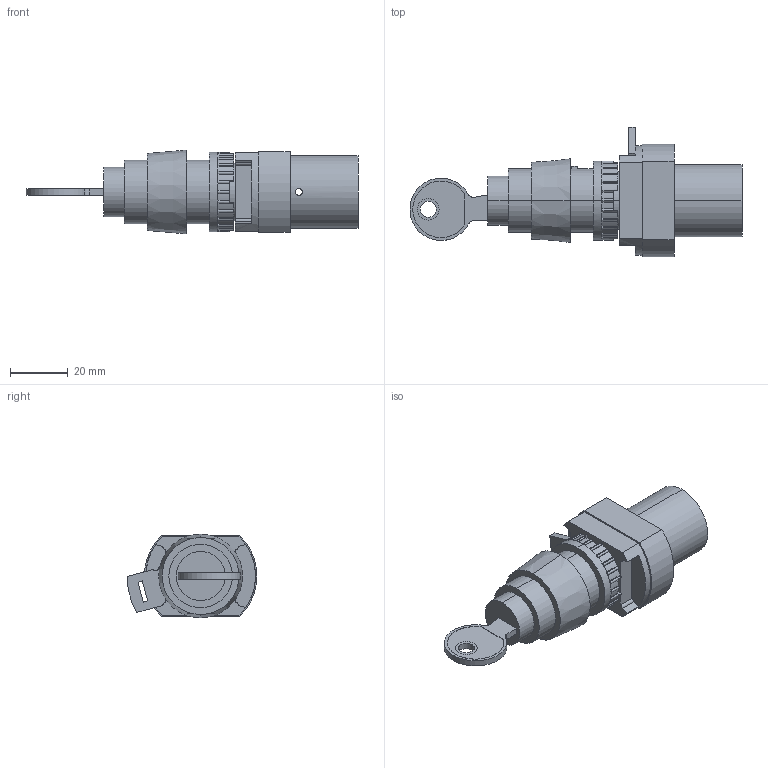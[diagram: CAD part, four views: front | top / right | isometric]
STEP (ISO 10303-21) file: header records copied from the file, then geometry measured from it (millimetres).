
FILE_DESCRIPTION (( 'STEP AP203' ), '1' );
FILE_NAME ('18-T-23-014_T-30-310-Airtec.step', '2006-10-31T13:15:59', ( 'Gustaf Hederström' ), ( 'Cevican AB' ), 'SwSTEP 2.0', 'SolidWorks 2002308', '' );
FILE_SCHEMA (( 'CONFIG_CONTROL_DESIGN' ));
Length unit declared in the file: millimetre
Products named in the file (3): 18-T-23-014_T-30-310-Airtec; T-30-310-Airtec; 18-T-23-014-Airtec
Assembly tree (2 placements, depth 2):
  18-T-23-014_T-30-310-Airtec
    T-30-310-Airtec
    18-T-23-014-Airtec
Bounding box: 114.97 x 45 x 29 mm (x, y, z)
Volume: 48126.9 mm3; surface area: 14559.2 mm2
Topology: 2 solids, 2 shells, 318 faces, 858 edges, 558 vertices
Faces by surface type: cylinder 172, plane 136, cone 8, bspline 2
Entity records: 10495 total; most frequent: DIRECTION 1910, CARTESIAN_POINT 1831, ORIENTED_EDGE 1704, EDGE_CURVE 852, AXIS2_PLACEMENT_3D 741, VERTEX_POINT 558, LINE 428, VECTOR 428
